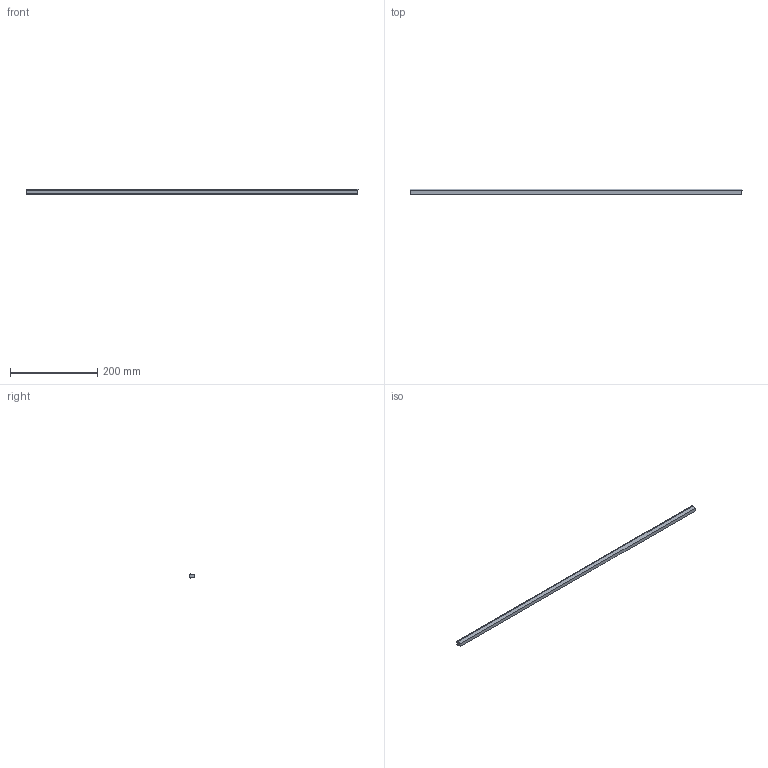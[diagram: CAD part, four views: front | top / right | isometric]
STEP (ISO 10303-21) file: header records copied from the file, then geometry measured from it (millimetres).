
FILE_DESCRIPTION(/* description */ (''),/* implementation_level */ '2;1');
FILE_NAME(/* name */ 'Pos0-Antislip-Rubber-0st_B',/* time_stamp */ '2024-08-06T13:37:43+02:00',/* author */ (''),/* organization */ (''),/* preprocessor_version */ 'ST-DEVELOPER v16.5',/* originating_system */ 'HiCAD 2024 2901.2 Build 361',/* authorisation */ '');
FILE_SCHEMA (('AUTOMOTIVE_DESIGN { 1 0 10303 214 1 1 1 1 }'));
Length unit declared in the file: millimetre
Products named in the file (1): Pos0-Antislip-Rubber-0st
Bounding box: 761.91 x 12 x 12 mm (x, y, z)
Volume: 76191.3 mm3; surface area: 34986.6 mm2
Topology: 1 solids, 1 shells, 10 faces, 24 edges, 16 vertices
Faces by surface type: plane 10
Entity records: 546 total; most frequent: CARTESIAN_POINT 50, PRESENTATION_STYLE_ASSIGNMENT 49, COLOUR_RGB 49, DRAUGHTING_PRE_DEFINED_CURVE_FONT 48, CURVE_STYLE 48, OVER_RIDING_STYLED_ITEM 48, ORIENTED_EDGE 48, DIRECTION 44
